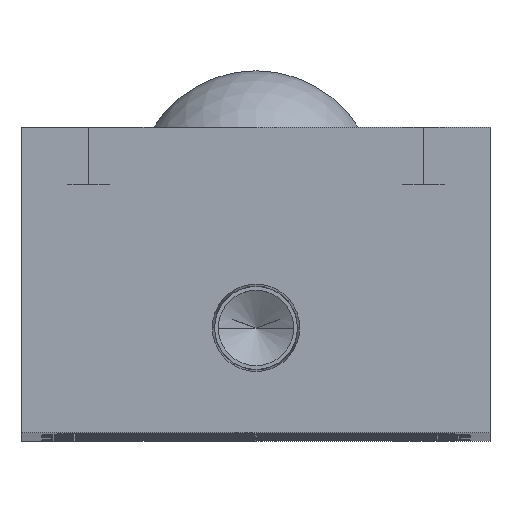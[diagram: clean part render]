
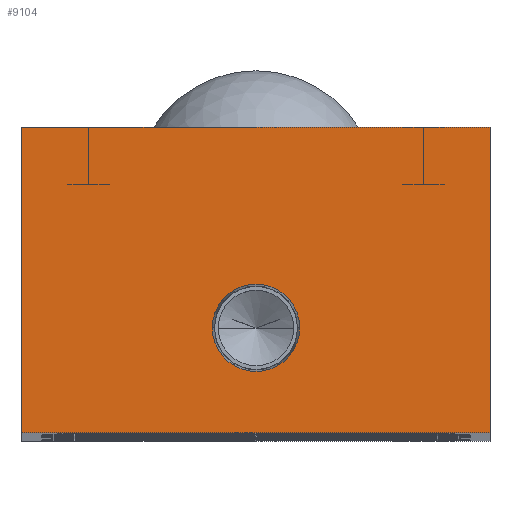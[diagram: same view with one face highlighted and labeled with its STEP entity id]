
A CAD part, top view. The second image highlights one B-rep face of the part: STEP entity #9104.
In plain terms, the highlighted planar face has unit normal (0, 0, 1).
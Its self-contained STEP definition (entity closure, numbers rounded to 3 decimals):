
#9 = LINE ( 'NONE', #8558, #4582 ) ;
#108 = EDGE_CURVE ( 'NONE', #9272, #7665, #9, .T. ) ;
#694 = CARTESIAN_POINT ( 'NONE',  ( -24.5, 32., 0. ) ) ;
#806 = FACE_BOUND ( 'NONE', #10718, .T. ) ;
#854 = AXIS2_PLACEMENT_3D ( 'NONE', #9373, #3938, #10290 ) ;
#929 = VECTOR ( 'NONE', #10282, 1000. ) ;
#1269 = DIRECTION ( 'NONE',  ( -1., 0., 0. ) ) ;
#2448 = VERTEX_POINT ( 'NONE', #7386 ) ;
#2534 = CARTESIAN_POINT ( 'NONE',  ( 0., 11., 0. ) ) ;
#2644 = CARTESIAN_POINT ( 'NONE',  ( 24.5, 0., 0. ) ) ;
#3088 = CARTESIAN_POINT ( 'NONE',  ( -24.5, 0., 0. ) ) ;
#3357 = ORIENTED_EDGE ( 'NONE', *, *, #8572, .T. ) ;
#3444 = DIRECTION ( 'NONE',  ( 1., 0., 0. ) ) ;
#3808 = CIRCLE ( 'NONE', #854, 4.574 ) ;
#3938 = DIRECTION ( 'NONE',  ( 0., 0., 1. ) ) ;
#4030 = VERTEX_POINT ( 'NONE', #8219 ) ;
#4060 = CIRCLE ( 'NONE', #6650, 4.574 ) ;
#4278 = CARTESIAN_POINT ( 'NONE',  ( -24.5, 32., 0. ) ) ;
#4582 = VECTOR ( 'NONE', #8543, 1000. ) ;
#6650 = AXIS2_PLACEMENT_3D ( 'NONE', #2534, #8879, #3444 ) ;
#6741 = DIRECTION ( 'NONE',  ( 0., 0., -1. ) ) ;
#6828 = VERTEX_POINT ( 'NONE', #11070 ) ;
#7089 = DIRECTION ( 'NONE',  ( -1., 0., 0. ) ) ;
#7386 = CARTESIAN_POINT ( 'NONE',  ( 4.574, 11., 0. ) ) ;
#7483 = CARTESIAN_POINT ( 'NONE',  ( 24.5, 0., 0. ) ) ;
#7665 = VERTEX_POINT ( 'NONE', #3088 ) ;
#7737 = ORIENTED_EDGE ( 'NONE', *, *, #10714, .F. ) ;
#7872 = ORIENTED_EDGE ( 'NONE', *, *, #9946, .F. ) ;
#7883 = EDGE_CURVE ( 'NONE', #6828, #9272, #10484, .T. ) ;
#7944 = LINE ( 'NONE', #2644, #10351 ) ;
#8081 = DIRECTION ( 'NONE',  ( 1., 0., 0. ) ) ;
#8109 = ORIENTED_EDGE ( 'NONE', *, *, #7883, .T. ) ;
#8199 = LINE ( 'NONE', #8439, #929 ) ;
#8219 = CARTESIAN_POINT ( 'NONE',  ( -4.574, 11., 0. ) ) ;
#8347 = VECTOR ( 'NONE', #7089, 1000. ) ;
#8439 = CARTESIAN_POINT ( 'NONE',  ( 24.5, 32., 0. ) ) ;
#8512 = PLANE ( 'NONE',  #8754 ) ;
#8543 = DIRECTION ( 'NONE',  ( 0., -1., 0. ) ) ;
#8558 = CARTESIAN_POINT ( 'NONE',  ( -24.5, 0., 0. ) ) ;
#8572 = EDGE_CURVE ( 'NONE', #11521, #6828, #8199, .T. ) ;
#8754 = AXIS2_PLACEMENT_3D ( 'NONE', #10349, #6741, #1269 ) ;
#8879 = DIRECTION ( 'NONE',  ( 0., 0., 1. ) ) ;
#9104 = ADVANCED_FACE ( 'NONE', ( #806, #10475 ), #8512, .F. ) ;
#9272 = VERTEX_POINT ( 'NONE', #4278 ) ;
#9373 = CARTESIAN_POINT ( 'NONE',  ( 0., 11., 0. ) ) ;
#9946 = EDGE_CURVE ( 'NONE', #2448, #4030, #4060, .T. ) ;
#10218 = EDGE_LOOP ( 'NONE', ( #11635, #10493, #3357, #8109 ) ) ;
#10282 = DIRECTION ( 'NONE',  ( 0., 1., 0. ) ) ;
#10290 = DIRECTION ( 'NONE',  ( 1., 0., 0. ) ) ;
#10349 = CARTESIAN_POINT ( 'NONE',  ( 0., 0., 0. ) ) ;
#10351 = VECTOR ( 'NONE', #8081, 1000. ) ;
#10449 = EDGE_CURVE ( 'NONE', #7665, #11521, #7944, .T. ) ;
#10475 = FACE_OUTER_BOUND ( 'NONE', #10218, .T. ) ;
#10484 = LINE ( 'NONE', #694, #8347 ) ;
#10493 = ORIENTED_EDGE ( 'NONE', *, *, #10449, .T. ) ;
#10714 = EDGE_CURVE ( 'NONE', #4030, #2448, #3808, .T. ) ;
#10718 = EDGE_LOOP ( 'NONE', ( #7872, #7737 ) ) ;
#11070 = CARTESIAN_POINT ( 'NONE',  ( 24.5, 32., 0. ) ) ;
#11521 = VERTEX_POINT ( 'NONE', #7483 ) ;
#11635 = ORIENTED_EDGE ( 'NONE', *, *, #108, .T. ) ;
